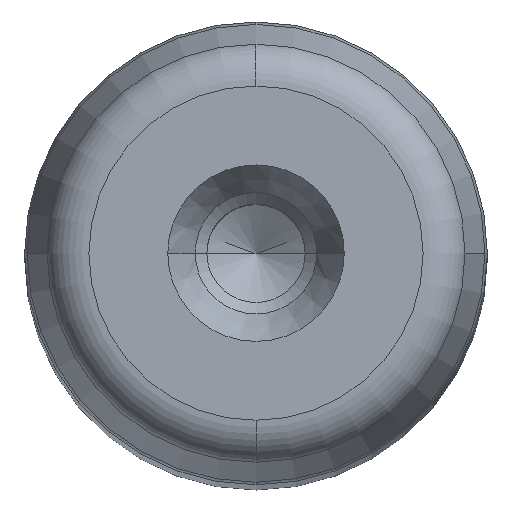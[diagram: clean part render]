
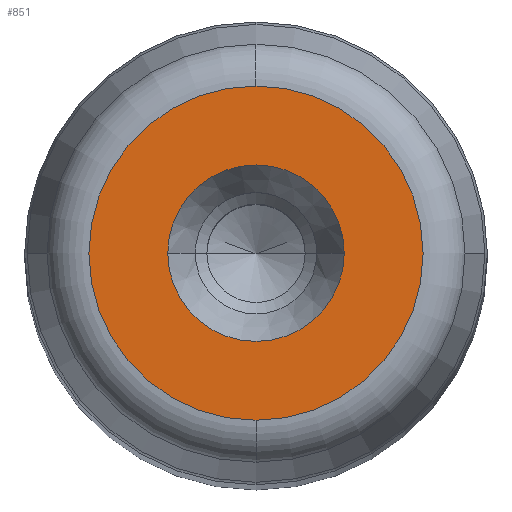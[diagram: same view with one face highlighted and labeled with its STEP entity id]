
A CAD part, top view. The second image highlights one B-rep face of the part: STEP entity #851.
In plain terms, the highlighted planar face has unit normal (0, 0, 1) as drawn and (0, 1, 0) by its records, which use the part's own axes.
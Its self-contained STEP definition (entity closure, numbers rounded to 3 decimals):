
#281=CARTESIAN_POINT('',(6.1,220.0,0.0));
#282=VERTEX_POINT('',#281);
#289=CARTESIAN_POINT('',(-6.1,220.0,0.));
#290=VERTEX_POINT('',#289);
#291=CARTESIAN_POINT('',(0.0,220.0,0.0));
#292=DIRECTION('',(0.0,1.0,0.0));
#293=DIRECTION('',(1.0,0.0,0.0));
#294=AXIS2_PLACEMENT_3D('',#291,#292,#293);
#295=CIRCLE('',#294,6.1);
#296=EDGE_CURVE('',#282,#290,#295,.T.);
#313=CARTESIAN_POINT('',(0.0,220.0,11.554));
#314=VERTEX_POINT('',#313);
#324=CARTESIAN_POINT('',(0.,220.0,-11.554));
#325=VERTEX_POINT('',#324);
#326=CARTESIAN_POINT('',(0.0,220.0,0.0));
#327=DIRECTION('',(0.0,1.0,0.0));
#328=DIRECTION('',(1.0,0.0,0.0));
#329=AXIS2_PLACEMENT_3D('',#326,#327,#328);
#330=CIRCLE('',#329,11.554);
#331=EDGE_CURVE('',#325,#314,#330,.T.);
#812=CARTESIAN_POINT('',(11.554,220.0,0.0));
#813=VERTEX_POINT('',#812);
#814=CARTESIAN_POINT('',(0.0,220.0,0.0));
#815=DIRECTION('',(0.0,1.0,0.0));
#816=DIRECTION('',(1.0,0.0,0.0));
#817=AXIS2_PLACEMENT_3D('',#814,#815,#816);
#818=CIRCLE('',#817,11.554);
#819=EDGE_CURVE('',#813,#325,#818,.T.);
#821=CARTESIAN_POINT('',(0.0,220.0,0.0));
#822=DIRECTION('',(0.0,1.0,0.0));
#823=DIRECTION('',(1.0,0.0,0.0));
#824=AXIS2_PLACEMENT_3D('',#821,#822,#823);
#825=CIRCLE('',#824,11.554);
#826=EDGE_CURVE('',#314,#813,#825,.T.);
#831=CARTESIAN_POINT('',(-12.71,220.0,-12.71));
#832=DIRECTION('',(0.0,1.0,0.0));
#833=DIRECTION('',(0.0,0.0,1.0));
#834=AXIS2_PLACEMENT_3D('',#831,#832,#833);
#835=PLANE('',#834);
#836=ORIENTED_EDGE('',*,*,#819,.T.);
#837=ORIENTED_EDGE('',*,*,#331,.T.);
#838=ORIENTED_EDGE('',*,*,#826,.T.);
#839=EDGE_LOOP('',(#836,#837,#838));
#840=FACE_OUTER_BOUND('',#839,.T.);
#841=ORIENTED_EDGE('',*,*,#296,.F.);
#842=CARTESIAN_POINT('',(0.0,220.0,0.0));
#843=DIRECTION('',(0.0,1.0,0.0));
#844=DIRECTION('',(1.0,0.0,0.0));
#845=AXIS2_PLACEMENT_3D('',#842,#843,#844);
#846=CIRCLE('',#845,6.1);
#847=EDGE_CURVE('',#290,#282,#846,.T.);
#848=ORIENTED_EDGE('',*,*,#847,.F.);
#849=EDGE_LOOP('',(#841,#848));
#850=FACE_BOUND('',#849,.T.);
#851=ADVANCED_FACE('',(#840,#850),#835,.T.);
